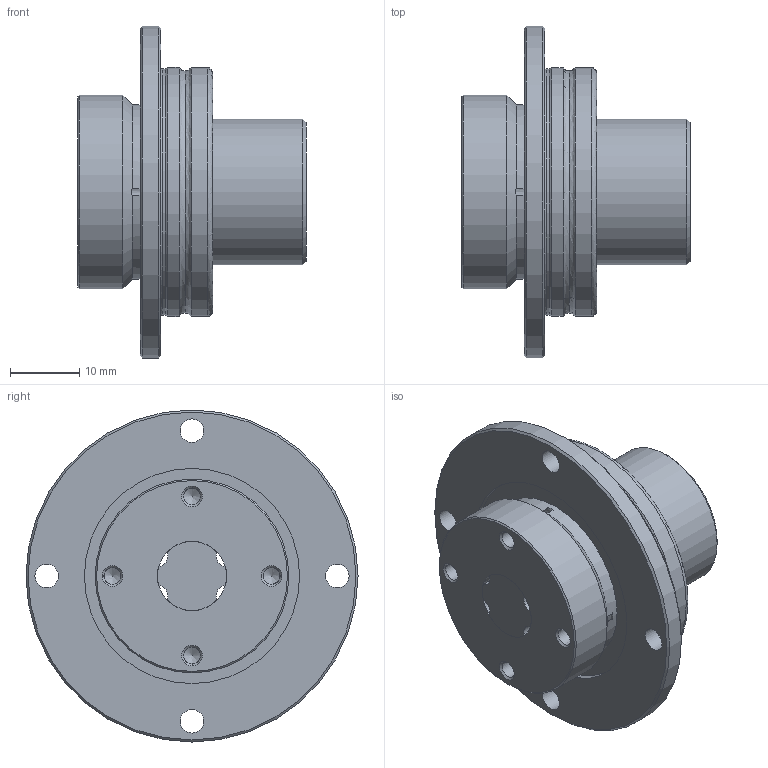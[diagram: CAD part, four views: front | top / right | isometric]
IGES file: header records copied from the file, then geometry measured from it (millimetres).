
Start section: Data from Parasolid IGES Translator 26.0.171, Copyright(c) 2006 Siemens PLM Software. All Rights Reserved.
Global section: file name: LTR10A+33L(0_0).igs; native system: By Siemens PLM Incorporated; preprocessor: XPlus GENERIC/IGES 26.0.171; author: Noname; organization: Noname; date: 20240528.075154; units: millimetre
Bounding box: 33 x 48 x 48 mm (x, y, z)
Surface area: 17789.8 mm2 (no closed solid volume)
Topology: 0 solids, 0 shells, 107 faces, 630 edges, 554 vertices
Faces by surface type: revolution 87, extrusion 20
